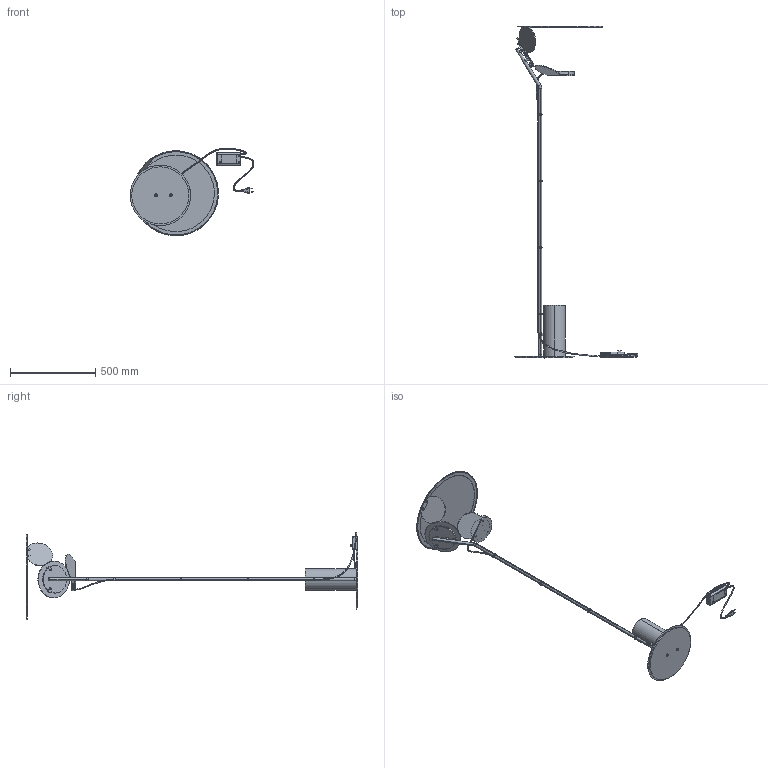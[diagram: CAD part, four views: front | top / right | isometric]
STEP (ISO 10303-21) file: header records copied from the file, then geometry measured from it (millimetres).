
FILE_DESCRIPTION (( 'STEP AP203' ), '1' );
FILE_NAME ('CUT-FLOOR_3.STEP', '2019-07-25T14:04:54', ( '' ), ( '' ), 'SwSTEP 2.0', 'SolidWorks 2019', '' );
FILE_SCHEMA (( 'CONFIG_CONTROL_DESIGN' ));
Length unit declared in the file: millimetre
Products named in the file (32): AXO067-09_CUTBottomRing.STEP; AXO067-16_CUTFloorPostSpacer.STEP; driver_led_multi_40W_RELCO_7040LED.STEP; AXO067-21_CUTFloorPost.STEP; AXO067-02_CUTFramePin.STEP; AXO067-07_CUTDisc.STEP; AXO067-10_CUTRingSupport.STEP; AXO067-05_CUTHeatsinkLock.STEP; AXO067-19_CUTBaseDecoration.STEP; CUT-FLOOR_3; AXO067E-CUTLightBlock_12LED.STEP; AXO067F_CUT_default.STEP; Cablaggio KWIC Floor^AXO067B_CUT-FLOOR.STEP; AXO067D-CUT_Frame.STEP; CUT-FLOOR_3.STEP; AXO067-04_CUTHeatsink.STEP; dado_M4_zigrinato.STEP; lente_protezione__67_EA_LM067.STEP; AXO067-17_CUTBase.STEP; ISO4026_M4_H04.STEP; AXO067-18_CUTBaseCover.STEP; AXO067-14_CUTFloorInterface.STEP; spina_tipo_L_2poli.STEP; AXO067-22_CUTFrameSpacer.STEP; AXO067-20_Blocccavo.STEP; AXO067-08_CUTTopRing.STEP; AXO067-03_CUTFrameHolder.STEP; AXO067-11_CUTBracket_CNC.STEP; AXO067-06_CUTLensPlate.STEP; nipple_SACLA_CoronaPiana_12291_nikelato.STEP; ISO7380_M4_H08.STEP; AXO067-01_CUTFrame_Default_As Machined_.STEP
Assembly tree (39 placements, depth 5):
  CUT-FLOOR_3
    CUT-FLOOR_3.STEP
      AXO067F_CUT_default.STEP
        AXO067D-CUT_Frame.STEP
          AXO067-01_CUTFrame_Default_As Machined_.STEP
          AXO067-02_CUTFramePin.STEP
          AXO067-03_CUTFrameHolder.STEP
          AXO067-22_CUTFrameSpacer.STEP
        AXO067E-CUTLightBlock_12LED.STEP
          AXO067-04_CUTHeatsink.STEP
          AXO067-05_CUTHeatsinkLock.STEP
          AXO067-06_CUTLensPlate.STEP
          nipple_SACLA_CoronaPiana_12291_nikelato.STEP
          lente_protezione__67_EA_LM067.STEP
        AXO067-07_CUTDisc.STEP
        AXO067-08_CUTTopRing.STEP
        AXO067-09_CUTBottomRing.STEP
        AXO067-10_CUTRingSupport.STEP
      AXO067-21_CUTFloorPost.STEP
      AXO067-11_CUTBracket_CNC.STEP  x3
      AXO067-14_CUTFloorInterface.STEP
      AXO067-16_CUTFloorPostSpacer.STEP  x3
      AXO067-17_CUTBase.STEP
      AXO067-18_CUTBaseCover.STEP
      AXO067-19_CUTBaseDecoration.STEP
      AXO067-20_Blocccavo.STEP  x4
      driver_led_multi_40W_RELCO_7040LED.STEP
      spina_tipo_L_2poli.STEP
      Cablaggio KWIC Floor^AXO067B_CUT-FLOOR.STEP
      ISO7380_M4_H08.STEP
      ISO4026_M4_H04.STEP  x2
      dado_M4_zigrinato.STEP
Bounding box: 725.78 x 1945.39 x 512.55 mm (x, y, z)
Volume: 3311384 mm3; surface area: 1881473.9 mm2
Topology: 40 solids, 40 shells, 2065 faces, 5073 edges, 3164 vertices
Faces by surface type: plane 919, cylinder 561, bspline 224, cone 174, torus 119, sphere 68
Entity records: 62038 total; most frequent: CARTESIAN_POINT 22807, DIRECTION 7454, ORIENTED_EDGE 7310, EDGE_CURVE 3655, AXIS2_PLACEMENT_3D 2772, VERTEX_POINT 2330, VECTOR 1910, LINE 1910
